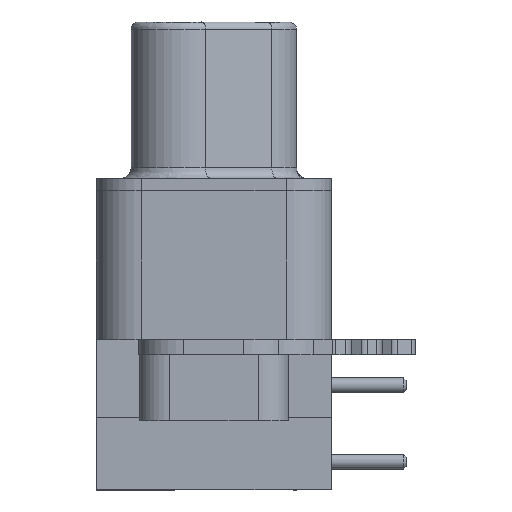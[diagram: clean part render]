
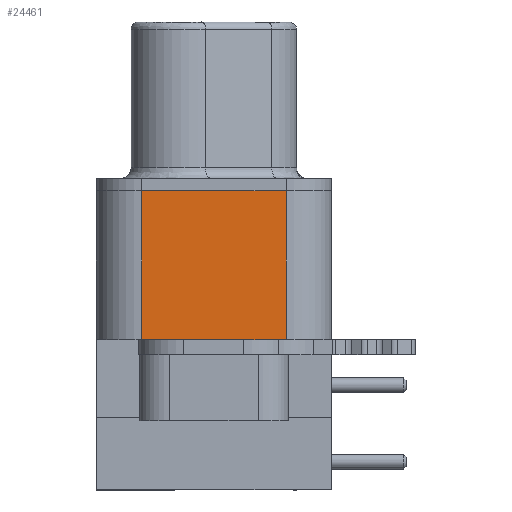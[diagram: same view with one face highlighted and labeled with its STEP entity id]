
A CAD part, left-side view. The second image highlights one B-rep face of the part: STEP entity #24461.
In plain terms, the highlighted planar face has unit normal (-1, 0, 0).
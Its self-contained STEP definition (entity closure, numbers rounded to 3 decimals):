
#230 = DIRECTION ( 'NONE',  ( 0., 0., 1. ) ) ;
#622 = LINE ( 'NONE', #16947, #7662 ) ;
#781 = VECTOR ( 'NONE', #20997, 1000. ) ;
#1185 = ORIENTED_EDGE ( 'NONE', *, *, #6738, .T. ) ;
#1508 = VECTOR ( 'NONE', #15720, 1000. ) ;
#1618 = VERTEX_POINT ( 'NONE', #13332 ) ;
#1793 = CARTESIAN_POINT ( 'NONE',  ( 0., 2.4, 0. ) ) ;
#2558 = EDGE_LOOP ( 'NONE', ( #23634, #24450, #8155, #1185 ) ) ;
#2903 = AXIS2_PLACEMENT_3D ( 'NONE', #21544, #23929, #3358 ) ;
#2960 = LINE ( 'NONE', #14577, #781 ) ;
#3358 = DIRECTION ( 'NONE',  ( 0., -1., 0. ) ) ;
#4301 = CARTESIAN_POINT ( 'NONE',  ( 0., -2.4, 0. ) ) ;
#5870 = CARTESIAN_POINT ( 'NONE',  ( 0., 2.4, -4.95 ) ) ;
#6369 = PLANE ( 'NONE',  #2903 ) ;
#6738 = EDGE_CURVE ( 'NONE', #8982, #1618, #19868, .T. ) ;
#7662 = VECTOR ( 'NONE', #23087, 1000. ) ;
#8155 = ORIENTED_EDGE ( 'NONE', *, *, #15978, .T. ) ;
#8982 = VERTEX_POINT ( 'NONE', #5870 ) ;
#10477 = VERTEX_POINT ( 'NONE', #1793 ) ;
#12201 = EDGE_CURVE ( 'NONE', #1618, #18310, #18170, .T. ) ;
#13332 = CARTESIAN_POINT ( 'NONE',  ( 0., -2.4, -4.95 ) ) ;
#14577 = CARTESIAN_POINT ( 'NONE',  ( 0., 2.4, -2.475 ) ) ;
#15720 = DIRECTION ( 'NONE',  ( 0., -1., 0. ) ) ;
#15978 = EDGE_CURVE ( 'NONE', #10477, #8982, #2960, .T. ) ;
#16947 = CARTESIAN_POINT ( 'NONE',  ( 0., 0., 0. ) ) ;
#17312 = EDGE_CURVE ( 'NONE', #10477, #18310, #622, .T. ) ;
#18170 = LINE ( 'NONE', #22432, #20950 ) ;
#18310 = VERTEX_POINT ( 'NONE', #4301 ) ;
#19868 = LINE ( 'NONE', #21749, #1508 ) ;
#20950 = VECTOR ( 'NONE', #230, 1000. ) ;
#20997 = DIRECTION ( 'NONE',  ( 0., 0., -1. ) ) ;
#21544 = CARTESIAN_POINT ( 'NONE',  ( 0., 2.496, -5.049 ) ) ;
#21749 = CARTESIAN_POINT ( 'NONE',  ( 0., 0., -4.95 ) ) ;
#22432 = CARTESIAN_POINT ( 'NONE',  ( 0., -2.4, -2.475 ) ) ;
#23087 = DIRECTION ( 'NONE',  ( 0., -1., 0. ) ) ;
#23634 = ORIENTED_EDGE ( 'NONE', *, *, #12201, .T. ) ;
#23929 = DIRECTION ( 'NONE',  ( -1., 0., 0. ) ) ;
#24450 = ORIENTED_EDGE ( 'NONE', *, *, #17312, .F. ) ;
#24461 = ADVANCED_FACE ( 'NONE', ( #24690 ), #6369, .T. ) ;
#24690 = FACE_OUTER_BOUND ( 'NONE', #2558, .T. ) ;
